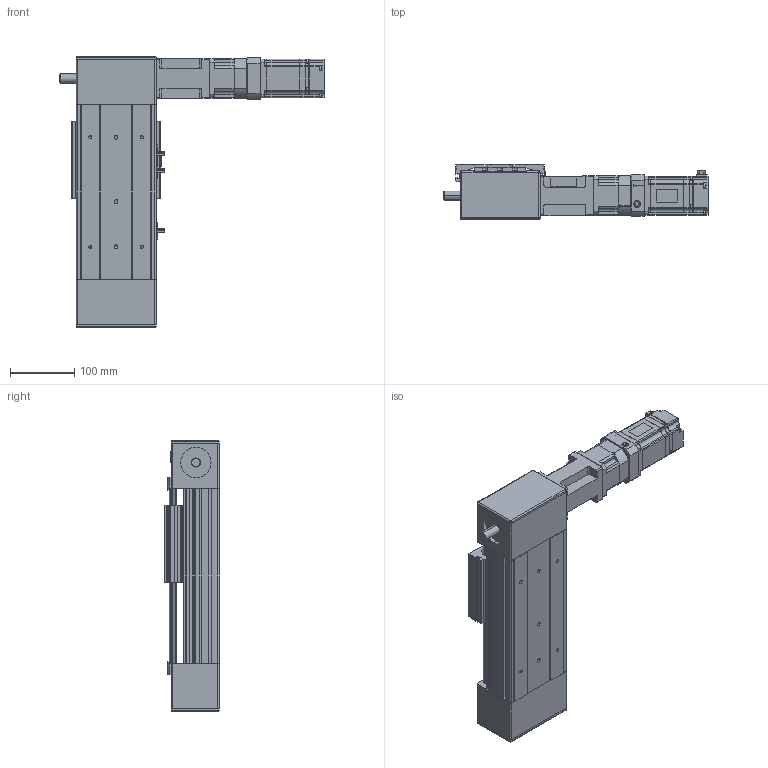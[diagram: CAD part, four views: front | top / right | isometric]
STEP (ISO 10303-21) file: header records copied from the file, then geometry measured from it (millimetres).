
FILE_DESCRIPTION (( 'STEP AP203' ), '1' );
FILE_NAME ('POB120SDN-0000-ST100-40NR00-N-I3R.STEP', '2015-10-07T06:31:33', ( '' ), ( '' ), 'SwSTEP 2.0', 'SolidWorks 2012', '' );
FILE_SCHEMA (( 'CONFIG_CONTROL_DESIGN' ));
Products named in the file (11): sgmjv_04a_a21; POB120SDN-0000-ST100-40NR00-N-I3R; PGX62-H-1_3; jc32c; PCB120-Motor Bracket; PCB120-Idler Pulley Block; PCB120-Drive Pulley Block D; EE_SX672; POB120-Sensor Dog; POB120-100ST BASE; POB120-Carrier
Assembly tree (12 placements, depth 2):
  POB120SDN-0000-ST100-40NR00-N-I3R
    POB120-100ST BASE
    POB120-Carrier
    PCB120-Drive Pulley Block D
    PCB120-Idler Pulley Block
    EE_SX672  x3
    POB120-Sensor Dog
    PCB120-Motor Bracket
    PGX62-H-1_3
    jc32c
    sgmjv_04a_a21
Bounding box: 409.6 x 86 x 420 mm (x, y, z)
Volume: 4103882.4 mm3; surface area: 602943.3 mm2
Topology: 35 solids, 36 shells, 2003 faces, 5238 edges, 3365 vertices
Faces by surface type: plane 1103, cylinder 682, cone 170, bspline 40, sphere 8
Entity records: 60992 total; most frequent: CARTESIAN_POINT 13384, DIRECTION 9804, ORIENTED_EDGE 9584, EDGE_CURVE 4794, AXIS2_PLACEMENT_3D 3371, VERTEX_POINT 3117, LINE 3062, VECTOR 3062
